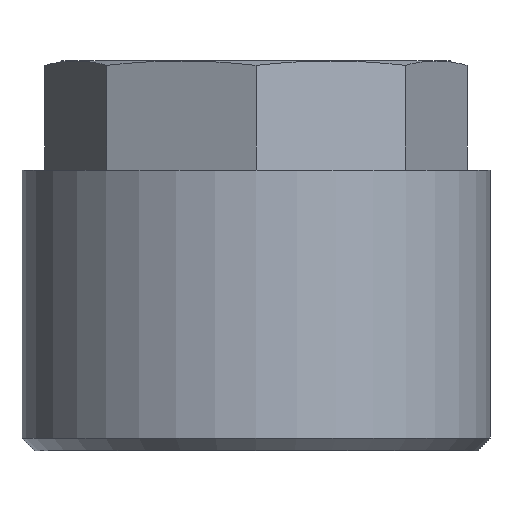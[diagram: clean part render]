
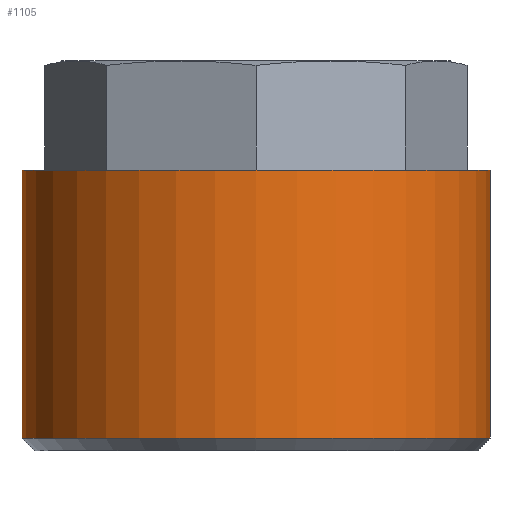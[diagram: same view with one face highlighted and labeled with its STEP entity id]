
A CAD part, front view. The second image highlights one B-rep face of the part: STEP entity #1105.
In plain terms, the highlighted cylindrical face has radius 9 mm (diameter 18 mm), a full revolution.
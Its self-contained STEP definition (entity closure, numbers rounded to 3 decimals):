
#585=CYLINDRICAL_SURFACE('',#1060,9.);
#678=ORIENTED_EDGE('',*,*,#785,.F.);
#679=ORIENTED_EDGE('',*,*,#786,.T.);
#701=CIRCLE('',#1059,9.);
#702=CIRCLE('',#1061,9.);
#735=VERTEX_POINT('',#1209);
#736=VERTEX_POINT('',#1212);
#785=EDGE_CURVE('',#735,#735,#701,.T.);
#786=EDGE_CURVE('',#736,#736,#702,.T.);
#818=EDGE_LOOP('',(#678));
#819=EDGE_LOOP('',(#679));
#856=FACE_BOUND('',#818,.T.);
#857=FACE_BOUND('',#819,.T.);
#984=DIRECTION('',(0.,1.,0.));
#985=DIRECTION('',(0.,0.,-9.));
#986=DIRECTION('',(0.,1.,0.));
#987=DIRECTION('',(1.,0.,0.));
#988=DIRECTION('',(0.,1.,0.));
#989=DIRECTION('',(0.,0.,9.));
#1059=AXIS2_PLACEMENT_3D('',#1210,#984,#985);
#1060=AXIS2_PLACEMENT_3D('',#1211,#986,#987);
#1061=AXIS2_PLACEMENT_3D('',#1213,#988,#989);
#1105=ADVANCED_FACE('',(#856,#857),#585,.T.);
#1209=CARTESIAN_POINT('',(26.989,25.395,-9.));
#1210=CARTESIAN_POINT('',(26.989,25.395,0.));
#1211=CARTESIAN_POINT('',(26.989,15.095,0.));
#1212=CARTESIAN_POINT('',(26.989,15.095,9.));
#1213=CARTESIAN_POINT('',(26.989,15.095,0.));
